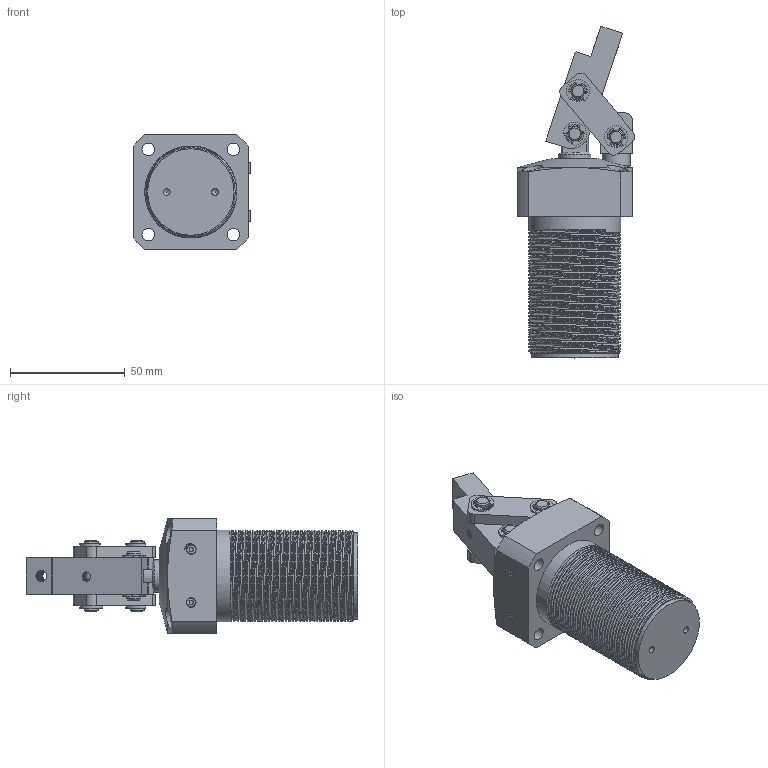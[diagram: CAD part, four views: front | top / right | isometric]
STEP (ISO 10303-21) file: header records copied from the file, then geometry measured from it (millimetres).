
FILE_DESCRIPTION(/* description */ (''),/* implementation_level */ '2;1');
FILE_NAME(/* name */ 'E:\SERWER_ZAPAS\MODELE brakujace\PNEUMATIC\CPLCU(STEP)\cplcu-25_asm\CPLCU-25_OTWARTY.stp',/* time_stamp */ '2019-02-08T13:44:13+01:00',/* author */ ('Admin'),/* organization */ (''),/* preprocessor_version */ 'ST-DEVELOPER v17.2',/* originating_system */ 'Autodesk Inventor 2019',/* authorisation */ '');
FILE_SCHEMA (('AUTOMOTIVE_DESIGN { 1 0 10303 214 3 1 1 }'));
Products named in the file (10): CPLCU-25_OTWARTY; CPLCU-25-07; CPLCU-25-06; CPLCU-25-01; CPLCU-25-05; CPLCU-25-02; CPLCU-25-09; CPLCU-25-03; CPLCU-25-04; LHC01D-32-01
Assembly tree (21 placements, depth 2):
  CPLCU-25_OTWARTY
    CPLCU-25-07
    CPLCU-25-06
    CPLCU-25-01
    CPLCU-25-05
    CPLCU-25-02  x2
    CPLCU-25-09  x6
    CPLCU-25-03
    CPLCU-25-04  x2
    LHC01D-32-01  x6
Bounding box: 50.99 x 144.33 x 50 mm (x, y, z)
Volume: 139958.4 mm3; surface area: 49314.4 mm2
Topology: 21 solids, 21 shells, 523 faces, 1401 edges, 949 vertices
Faces by surface type: cylinder 256, plane 152, cone 58, bspline 56, torus 1
Full cylindrical faces by diameter (mm): 1.85 x2, 3 x2, 3.6 x3, 4.2 x21, 5 x15, 5.5 x4, 6 x19, 6.75 x11, 8 x16, 9 x4, 12 x2, 14 x2, 17 x1, 20 x2, 24.5 x3, 25 x1, 37.6 x1, 40 x35
Entity records: 37501 total; most frequent: CARTESIAN_POINT 28822, ORIENTED_EDGE 1864, DIRECTION 1506, EDGE_CURVE 932, VERTEX_POINT 634, AXIS2_PLACEMENT_3D 590, EDGE_LOOP 400, FACE_OUTER_BOUND 344
